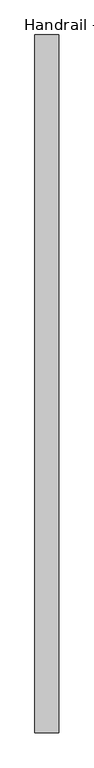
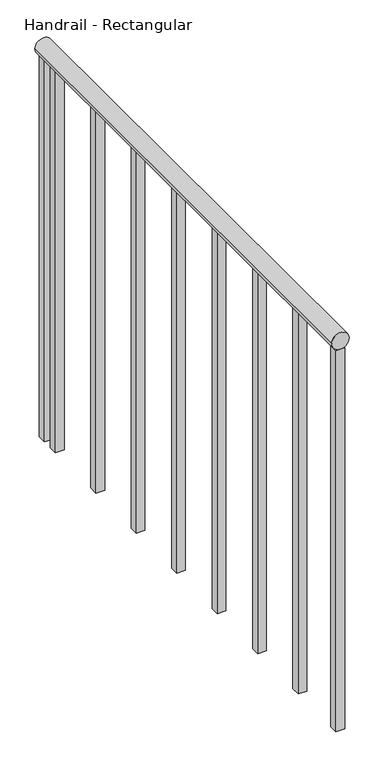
"""IFC4 building model written with IfcOpenShell, lengths in millimetres: railing geometry, Handrail - Rectangular."""

from ifc_helpers import new_model, si_unit, point, frame, frame_2d, origin, place, context, project, spatial, polyline, circle_curve, trimmed, segment, composite_curve, outline, extrude, source, transform, mapped, element, save


def handrail_rectangular_a6a73193(model_context):
    return source(origin(), model_context, "Body", "SweptSolid", [
        extrude(outline(composite_curve([segment(trimmed(circle_curve(frame_2d((10039.35, -18451.4839563)), 19.05), [point((10039.35, -18470.5339563))], [point((10039.35, -18432.4339563))], False, "CARTESIAN"), True, "CONTINUOUS"), segment(trimmed(circle_curve(frame_2d((10039.35, -18451.4839563)), 19.05), [point((10039.35, -18432.4339563))], [point((10039.35, -18470.5339563))], False, "CARTESIAN"), True, "CONTINUOUS")], self_intersect=False)), frame((0.0, -35349.9683133, 0.0), z_axis=(0.0, 1.0, 0.0), x_axis=(0.0, 0.0, 1.0)), (0.0, 0.0, 1.0), 1117.6),
        extrude(outline(polyline([(-18441.9589563, -34292.6933133), (-18461.0089563, -34292.6933133), (-18461.0089563, -34273.6433133), (-18441.9589563, -34273.6433133), (-18441.9589563, -34292.6933133)])), frame((0.0, 0.0, 9144.0), z_axis=(0.0, 0.0, 1.0), x_axis=(1.0, 0.0, 0.0)), (0.0, 0.0, 1.0), 876.3),
        extrude(outline(polyline([(-18441.9589563, -34445.0933133), (-18461.0089563, -34445.0933133), (-18461.0089563, -34426.0433133), (-18441.9589563, -34426.0433133), (-18441.9589563, -34445.0933133)])), frame((0.0, 0.0, 9144.0), z_axis=(0.0, 0.0, 1.0), x_axis=(1.0, 0.0, 0.0)), (0.0, 0.0, 1.0), 876.3),
        extrude(outline(polyline([(-18441.9589563, -34597.4933133), (-18461.0089563, -34597.4933133), (-18461.0089563, -34578.4433133), (-18441.9589563, -34578.4433133), (-18441.9589563, -34597.4933133)])), frame((0.0, 0.0, 9144.0), z_axis=(0.0, 0.0, 1.0), x_axis=(1.0, 0.0, 0.0)), (0.0, 0.0, 1.0), 876.3),
        extrude(outline(polyline([(-18441.9589563, -34749.8933133), (-18461.0089563, -34749.8933133), (-18461.0089563, -34730.8433133), (-18441.9589563, -34730.8433133), (-18441.9589563, -34749.8933133)])), frame((0.0, 0.0, 9144.0), z_axis=(0.0, 0.0, 1.0), x_axis=(1.0, 0.0, 0.0)), (0.0, 0.0, 1.0), 876.3),
        extrude(outline(polyline([(-18441.9589563, -34902.2933133), (-18461.0089563, -34902.2933133), (-18461.0089563, -34883.2433133), (-18441.9589563, -34883.2433133), (-18441.9589563, -34902.2933133)])), frame((0.0, 0.0, 9144.0), z_axis=(0.0, 0.0, 1.0), x_axis=(1.0, 0.0, 0.0)), (0.0, 0.0, 1.0), 876.3),
        extrude(outline(polyline([(-18441.9589563, -35054.6933133), (-18461.0089563, -35054.6933133), (-18461.0089563, -35035.6433133), (-18441.9589563, -35035.6433133), (-18441.9589563, -35054.6933133)])), frame((0.0, 0.0, 9144.0), z_axis=(0.0, 0.0, 1.0), x_axis=(1.0, 0.0, 0.0)), (0.0, 0.0, 1.0), 876.3),
        extrude(outline(polyline([(-18441.9589563, -35207.0933133), (-18461.0089563, -35207.0933133), (-18461.0089563, -35188.0433133), (-18441.9589563, -35188.0433133), (-18441.9589563, -35207.0933133)])), frame((0.0, 0.0, 9144.0), z_axis=(0.0, 0.0, 1.0), x_axis=(1.0, 0.0, 0.0)), (0.0, 0.0, 1.0), 876.3),
        extrude(outline(polyline([(-18441.9589563, -34251.4183133), (-18461.0089563, -34251.4183133), (-18461.0089563, -34232.3683133), (-18441.9589563, -34232.3683133), (-18441.9589563, -34251.4183133)])), frame((0.0, 0.0, 9144.0), z_axis=(0.0, 0.0, 1.0), x_axis=(1.0, 0.0, 0.0)), (0.0, 0.0, 1.0), 876.3),
        extrude(outline(polyline([(-18441.9589563, -35349.9683133), (-18461.0089563, -35349.9683133), (-18461.0089563, -35330.9183133), (-18441.9589563, -35330.9183133), (-18441.9589563, -35349.9683133)])), frame((0.0, 0.0, 9144.0), z_axis=(0.0, 0.0, 1.0), x_axis=(1.0, 0.0, 0.0)), (0.0, 0.0, 1.0), 876.3),
    ])


if __name__ == "__main__":
    model = new_model("IFC4")
    model_context = context("Model", 3, world=origin())
    ifc_project = project(units=[si_unit("LENGTHUNIT", "METRE", prefix="MILLI")], contexts=[model_context])
    site = spatial("IfcSite", under=ifc_project)
    building = spatial("IfcBuilding", under=site)
    placement = place(None, origin())
    handrail_rectangular_shape = handrail_rectangular_a6a73193(model_context)
    element("IfcRailing", 1, ObjectType="Handrail - Rectangular", at=placement, inside=building, context=model_context, shape_type="MappedRepresentation", body=[
        mapped(handrail_rectangular_shape, transform((0.0, 0.0, 0.0), x_axis=(1.0, 0.0, 0.0), y_axis=(0.0, 1.0, 0.0), z_axis=(0.0, 0.0, 1.0))),
    ])
    save(model, "model.ifc")
